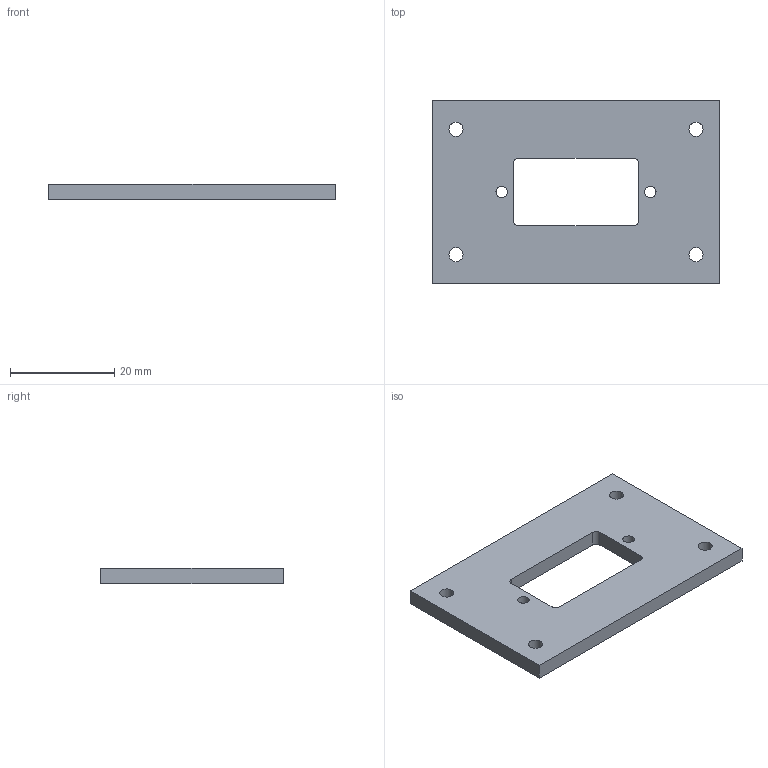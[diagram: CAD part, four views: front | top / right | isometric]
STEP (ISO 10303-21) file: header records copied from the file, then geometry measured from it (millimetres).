
FILE_DESCRIPTION(('Open CASCADE Model'),'2;1');
FILE_NAME('Open CASCADE Shape Model','2026-10-15T18:22:08',('Author'),( 'Open CASCADE'),'Open CASCADE STEP processor 7.9','Open CASCADE 7.9' ,'Unknown');
FILE_SCHEMA(('AUTOMOTIVE_DESIGN { 1 0 10303 214 1 1 1 1 }'));
Length unit declared in the file: millimetre
Products named in the file (1): Open CASCADE STEP translator 7.9 16
Bounding box: 55 x 35 x 3 mm (x, y, z)
Volume: 4750.1 mm3; surface area: 4066.8 mm2
Topology: 1 solids, 1 shells, 20 faces, 54 edges, 36 vertices
Faces by surface type: plane 10, cylinder 10
Full cylindrical faces by diameter (mm): 2.2 x2, 2.7 x4
Entity records: 1362 total; most frequent: CARTESIAN_POINT 235, DIRECTION 208, ORIENTED_EDGE 108, PCURVE 108, DEFINITIONAL_REPRESENTATION 108, LINE 106, VECTOR 106, EDGE_CURVE 54
